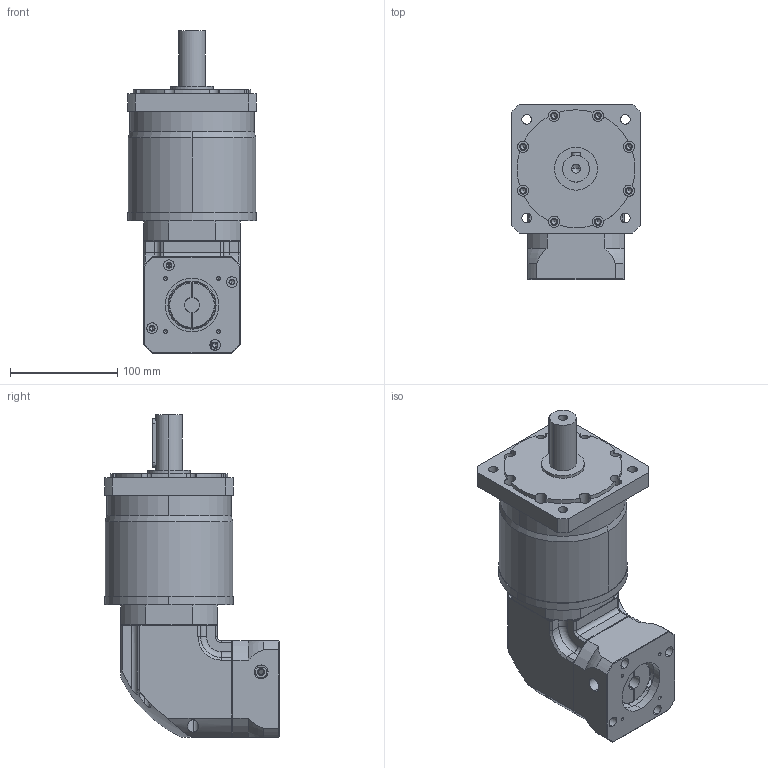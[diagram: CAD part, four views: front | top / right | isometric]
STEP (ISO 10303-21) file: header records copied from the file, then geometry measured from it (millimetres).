
FILE_DESCRIPTION (( 'STEP AP203' ), '1' );
FILE_NAME ('PVFA120-L3 14-50-70-M4.STEP', '2023-11-16T02:55:21', ( '' ), ( '' ), 'SwSTEP 2.0', 'SolidWorks 2020', '' );
FILE_SCHEMA (( 'CONFIG_CONTROL_DESIGN' ));
Length unit declared in the file: millimetre
Products named in the file (1): PVFA120-L3 14-50-70-M4
Bounding box: 120 x 163 x 301 mm (x, y, z)
Volume: 2285535.5 mm3; surface area: 268744.7 mm2
Topology: 5 solids, 16 shells, 1089 faces, 2843 edges, 1807 vertices
Faces by surface type: plane 536, cylinder 296, bspline 127, cone 116, torus 10, sphere 4
Entity records: 40056 total; most frequent: CARTESIAN_POINT 13958, ORIENTED_EDGE 5546, DIRECTION 5066, EDGE_CURVE 2773, VERTEX_POINT 1807, AXIS2_PLACEMENT_3D 1694, LINE 1678, VECTOR 1678
